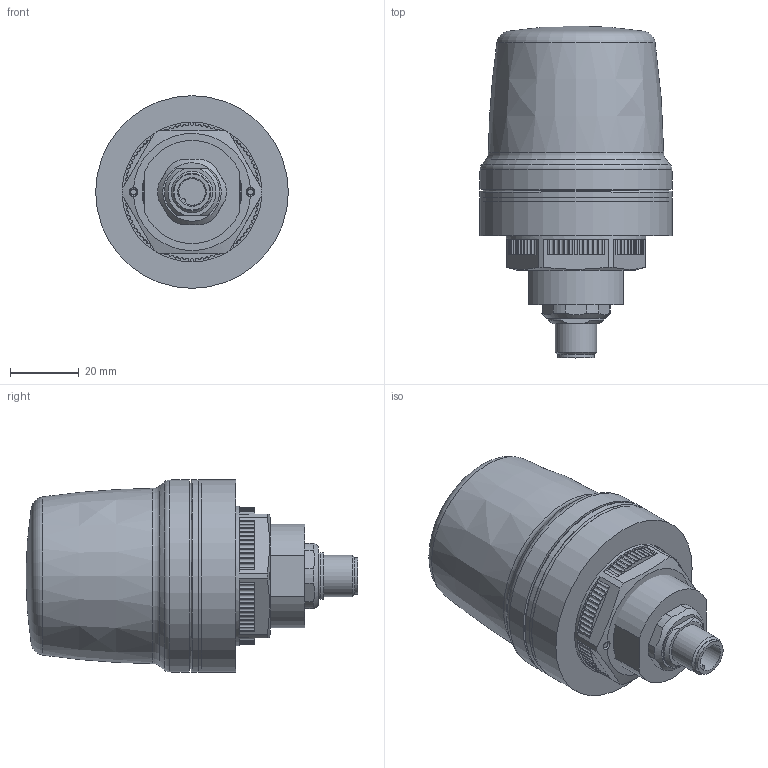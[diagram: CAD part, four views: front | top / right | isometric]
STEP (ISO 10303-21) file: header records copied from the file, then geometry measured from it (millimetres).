
FILE_DESCRIPTION( ( 'STEP AP203' ), '1' );
FILE_NAME( 'p:/temp/worker_6/temp/exporttempdir_128_740_8COVI/format_8/DV2120.stp', '2019-12-16T12:39:03', ( '' ), ( '' ), ' ', 'PARTsolutions', ' ' );
FILE_SCHEMA( ( 'CONFIG_CONTROL_DESIGN' ) );
Length unit declared in the file: millimetre
Products named in the file (3): DV2120; _DV2120_P1; _DV2120_P2
Assembly tree (2 placements, depth 2):
  DV2120
    _DV2120_P1
    _DV2120_P2
Bounding box: 56 x 96.5 x 56 mm (x, y, z)
Volume: 146148.2 mm3; surface area: 20344.5 mm2
Topology: 2 solids, 2 shells, 278 faces, 768 edges, 509 vertices
Faces by surface type: plane 148, cylinder 112, cone 8, torus 7, bspline 2, sphere 1
Full cylindrical faces by diameter (mm): 8.3 x1, 10.5 x1, 12 x1, 28.376 x1, 40.6 x1, 54 x1, 55.9 x1, 56 x2
Entity records: 8988 total; most frequent: CARTESIAN_POINT 1731, DIRECTION 1524, ORIENTED_EDGE 1470, EDGE_CURVE 735, AXIS2_PLACEMENT_3D 534, VERTEX_POINT 501, LINE 456, VECTOR 456
